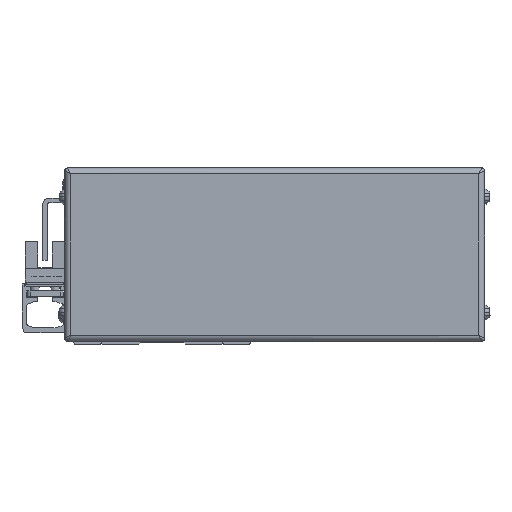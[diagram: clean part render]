
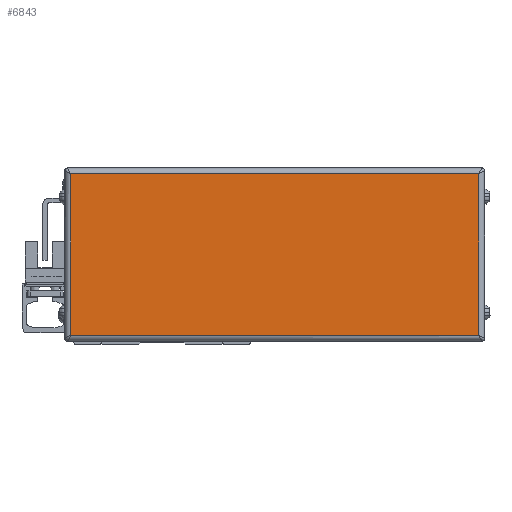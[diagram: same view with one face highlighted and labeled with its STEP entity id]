
A CAD part, left-side view. The second image highlights one B-rep face of the part: STEP entity #6843.
In plain terms, the highlighted planar face has unit normal (-1, 0, 0) as drawn and (0, 0, 1) by its records, which use the part's own axes.
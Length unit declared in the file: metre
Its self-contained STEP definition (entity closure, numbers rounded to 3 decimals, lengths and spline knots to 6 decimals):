
#6843=ADVANCED_FACE('',(#13452),#13453,.T.);
#13452=FACE_OUTER_BOUND('',#23761,.T.);
#13453=PLANE('',#23762);
#23761=EDGE_LOOP('',(#40064,#40065,#40066,#40067));
#23762=AXIS2_PLACEMENT_3D('',#40068,#40069,#40070);
#40064=ORIENTED_EDGE('',*,*,#43589,.F.);
#40065=ORIENTED_EDGE('',*,*,#46570,.F.);
#40066=ORIENTED_EDGE('',*,*,#47712,.F.);
#40067=ORIENTED_EDGE('',*,*,#47616,.F.);
#40068=CARTESIAN_POINT('',(-0.009,-0.053256,0.033889));
#40069=DIRECTION('',(0.0,0.0,1.0));
#40070=DIRECTION('',(1.0,0.0,0.0));
#43589=EDGE_CURVE('',#51794,#51125,#51797,.T.);
#46570=EDGE_CURVE('',#49444,#51794,#56088,.T.);
#47616=EDGE_CURVE('',#51125,#49879,#57327,.T.);
#47712=EDGE_CURVE('',#49879,#49444,#57425,.T.);
#49444=VERTEX_POINT('',#59938);
#49879=VERTEX_POINT('',#60637);
#51125=VERTEX_POINT('',#62357);
#51794=VERTEX_POINT('',#63471);
#51797=LINE('',#63483,#63484);
#56088=LINE('',#69832,#69833);
#57327=LINE('',#71687,#71688);
#57425=LINE('',#71814,#71815);
#59938=CARTESIAN_POINT('',(-0.037,0.017444,0.033889));
#60637=CARTESIAN_POINT('',(-0.037,-0.123956,0.033889));
#62357=CARTESIAN_POINT('',(0.019,-0.123956,0.033889));
#63471=CARTESIAN_POINT('',(0.019,0.017444,0.033889));
#63483=CARTESIAN_POINT('',(0.019,-0.053256,0.033889));
#63484=VECTOR('',#74755,1.0);
#69832=CARTESIAN_POINT('',(-0.009,0.017444,0.033889));
#69833=VECTOR('',#78077,1.0);
#71687=CARTESIAN_POINT('',(-0.009,-0.123956,0.033889));
#71688=VECTOR('',#78956,1.0);
#71814=CARTESIAN_POINT('',(-0.037,-0.053256,0.033889));
#71815=VECTOR('',#78985,1.0);
#74755=DIRECTION('',(0.0,-1.0,0.0));
#78077=DIRECTION('',(1.0,0.0,0.0));
#78956=DIRECTION('',(-1.0,0.0,0.0));
#78985=DIRECTION('',(0.0,1.0,0.0));
